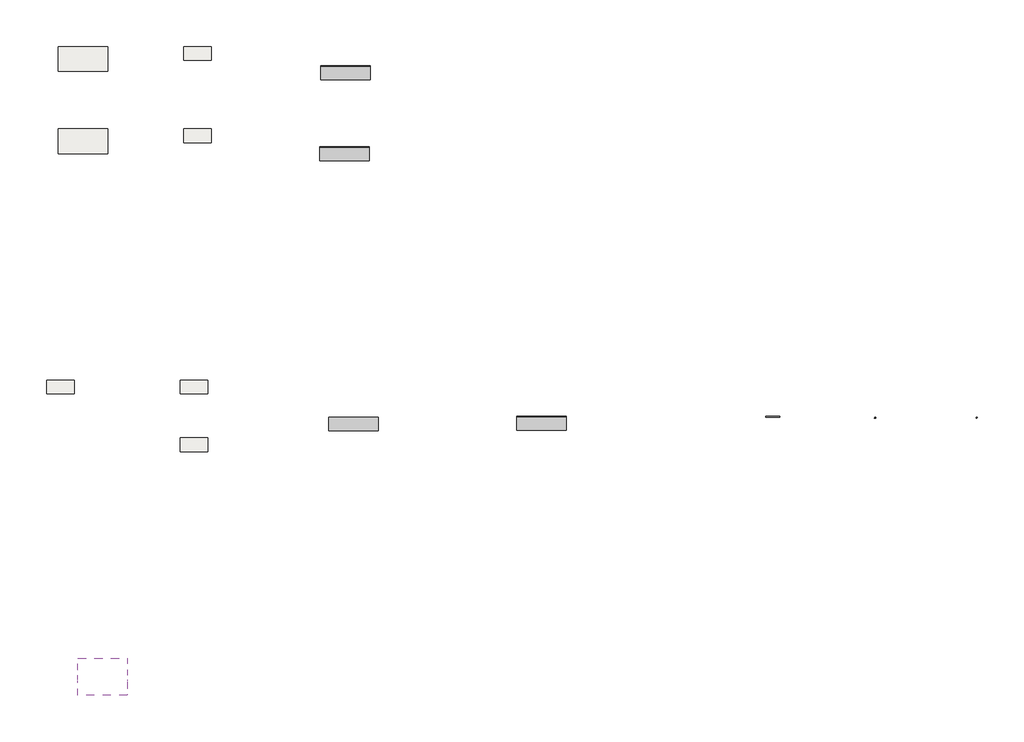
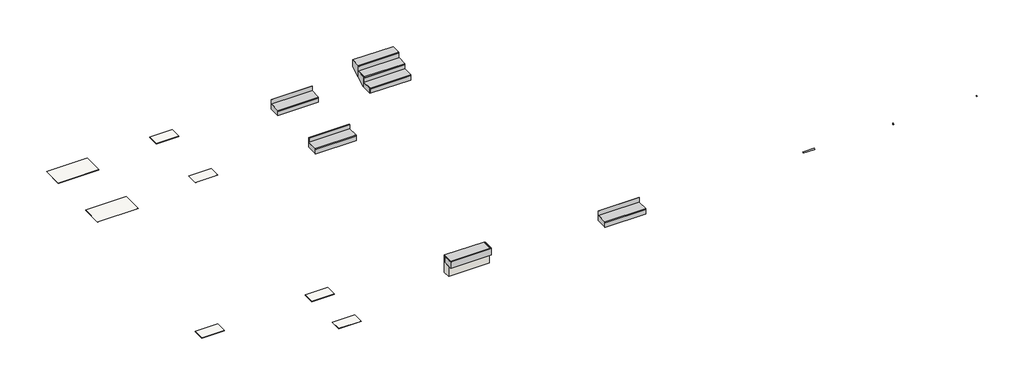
# One storey: 7 slabs, 5 proxies, 4 stair flights, 1 wall.
"""IFC4 building model written with IfcOpenShell, lengths in millimetres."""

import ifcopenshell
import ifcopenshell.guid

model = None  # the IFC model being written
_history = None  # IfcOwnerHistory: only IFC2X3 demands one
_inside = {}  # id of a spatial element -> (the spatial element, [elements in it])
_under = {}  # id of a project, library or spatial element -> (it, [spatial elements below it])
_declared = {}  # id of a project -> (the project, [libraries it declares])
_typed = {}  # id of a type object -> (the type object, [elements of that type])
_made_of = {}  # id of a material, layer set ... -> (it, [elements and type objects made of it])


def new_model(schema):
    """Start an empty IFC model of exactly this schema.

    Asked for "IFC4X3", IfcOpenShell would pick the latest addendum, in which some entities
    have other attributes; the version numbers below select the first issue.
    IFC2X3 requires an IfcOwnerHistory on every rooted entity: one is made here for all.
    """
    global model, _history
    if schema == "IFC4X3":
        model = ifcopenshell.file(schema_version=(4, 3, 0, 0))
    else:
        model = ifcopenshell.file(schema=schema)
    _inside.clear()
    _under.clear()
    _declared.clear()
    _typed.clear()
    _made_of.clear()
    _history = None
    if model.schema == "IFC2X3":
        org = make("IfcOrganization", Name="unknown")
        user = make(
            "IfcPersonAndOrganization",
            ThePerson=make("IfcPerson", FamilyName="unknown"),
            TheOrganization=org,
        )
        app = make(
            "IfcApplication",
            ApplicationDeveloper=org,
            Version="unknown",
            ApplicationFullName="unknown",
            ApplicationIdentifier="unknown",
        )
        _history = make(
            "IfcOwnerHistory",
            OwningUser=user,
            OwningApplication=app,
            ChangeAction="ADDED",
            CreationDate=0,
        )
    return model


def make(cls, **values):
    """One entity of the class cls with the attributes given. An attribute that is None is left unset."""
    return model.create_entity(
        cls, **{name: value for name, value in values.items() if value is not None}
    )


def rooted(cls, **values):
    """An entity with a GlobalId (a new one), such as an element, a storey or a relation."""
    return make(cls, GlobalId=ifcopenshell.guid.new(), OwnerHistory=_history, **values)


def si_unit(unit_type, name, prefix=None):
    """IfcSIUnit, for example si_unit("LENGTHUNIT", "METRE", prefix="MILLI")."""
    return make("IfcSIUnit", UnitType=unit_type, Prefix=prefix, Name=name)


def assignment(units):
    """IfcUnitAssignment: the units of a project."""
    return None if units is None else make("IfcUnitAssignment", Units=units)


def point(xyz):
    """IfcCartesianPoint."""
    return None if xyz is None else make("IfcCartesianPoint", Coordinates=xyz)


def direction(xyz):
    """IfcDirection."""
    return None if xyz is None else make("IfcDirection", DirectionRatios=xyz)


def frame(location, z_axis=None, x_axis=None):
    """IfcAxis2Placement3D, a coordinate frame: its origin and axes. An axis left out is left unset."""
    return make(
        "IfcAxis2Placement3D",
        Location=point(location),
        Axis=direction(z_axis),
        RefDirection=direction(x_axis),
    )


def frame_2d(location, x_axis=None):
    """IfcAxis2Placement2D, a coordinate frame in the plane: its origin and x axis."""
    return make(
        "IfcAxis2Placement2D", Location=point(location), RefDirection=direction(x_axis)
    )


def origin():
    """The frame at (0, 0, 0) with its axes left unset."""
    return frame((0.0, 0.0, 0.0))


def place(relative_to, where):
    """IfcLocalPlacement: puts the frame where relative to a parent placement (None: the world)."""
    return make(
        "IfcLocalPlacement", PlacementRelTo=relative_to, RelativePlacement=where
    )


def context(
    kind, dimensions, precision=None, world=None, true_north=None, identifier=None
):
    """IfcGeometricRepresentationContext, for example the 3D "Model" context."""
    return make(
        "IfcGeometricRepresentationContext",
        ContextIdentifier=identifier,
        ContextType=kind,
        CoordinateSpaceDimension=dimensions,
        Precision=precision,
        WorldCoordinateSystem=world,
        TrueNorth=true_north,
    )


def project(units=None, contexts=None):
    """IfcProject with its units and contexts."""
    return rooted(
        "IfcProject",
        Name="project",
        RepresentationContexts=contexts,
        UnitsInContext=assignment(units),
    )


def spatial(cls, under=None, at=None, **own):
    """A site, building, storey or space (cls), placed at a placement, below another one or the project."""
    s = rooted(cls, ObjectPlacement=at, **own)
    if under is not None:
        _under.setdefault(under.id(), (under, []))[1].append(s)
    return s


def polyline(points):
    """IfcPolyline through the points."""
    return make("IfcPolyline", Points=[point(p) for p in points])


def circle_curve(where, radius):
    """IfcCircle in the frame where."""
    return make("IfcCircle", Position=where, Radius=radius)


def ellipse_curve(where, semi_axis1, semi_axis2):
    """IfcEllipse in the frame where."""
    return make(
        "IfcEllipse", Position=where, SemiAxis1=semi_axis1, SemiAxis2=semi_axis2
    )


def trimmed(basis, trim1, trim2, sense, master):
    """IfcTrimmedCurve: the piece of a basis curve between two trims."""
    return make(
        "IfcTrimmedCurve",
        BasisCurve=basis,
        Trim1=trim1,
        Trim2=trim2,
        SenseAgreement=sense,
        MasterRepresentation=master,
    )


def segment(curve, same_sense, transition):
    """IfcCompositeCurveSegment."""
    return make(
        "IfcCompositeCurveSegment",
        Transition=transition,
        SameSense=same_sense,
        ParentCurve=curve,
    )


def composite_curve(segments, self_intersect=None):
    """IfcCompositeCurve: segments joined end to end."""
    return make("IfcCompositeCurve", Segments=segments, SelfIntersect=self_intersect)


def outline(outer, holes=None, kind="AREA"):
    """IfcArbitraryClosedProfileDef: a profile drawn as a closed curve; with holes, ...WithVoids."""
    if holes is None:
        return make("IfcArbitraryClosedProfileDef", ProfileType=kind, OuterCurve=outer)
    return make(
        "IfcArbitraryProfileDefWithVoids",
        ProfileType=kind,
        OuterCurve=outer,
        InnerCurves=holes,
    )


def extrude(swept, where, along, depth):
    """IfcExtrudedAreaSolid: the profile swept, set in the frame where, extruded along a direction by depth."""
    return make(
        "IfcExtrudedAreaSolid",
        SweptArea=swept,
        Position=where,
        ExtrudedDirection=direction(along),
        Depth=depth,
    )


def faces_of(points, faces, orient=None, outer=None):
    """IfcFace entities. A face is a list of loops; a loop is a list of indices into points, from 0.

    orient and outer hold one flag for each loop. By default every Orientation is true, the
    first loop of a face is its IfcFaceOuterBound and the others are IfcFaceBound.
    """
    made = []
    for i, loops in enumerate(faces):
        bounds = []
        for j, loop in enumerate(loops):
            is_outer = j == 0 if outer is None else outer[i][j]
            bounds.append(
                make(
                    "IfcFaceOuterBound" if is_outer else "IfcFaceBound",
                    Bound=make("IfcPolyLoop", Polygon=[points[k] for k in loop]),
                    Orientation=True if orient is None else orient[i][j],
                )
            )
        made.append(make("IfcFace", Bounds=bounds))
    return made


def faceted_brep(points, faces, orient=None, outer=None, voids=None):
    """IfcFacetedBrep: a solid bounded by flat faces; with voids (closed shells), ...WithVoids."""
    shared = [point(p) for p in points]
    hull = make("IfcClosedShell", CfsFaces=faces_of(shared, faces, orient, outer))
    if voids is None:
        return make("IfcFacetedBrep", Outer=hull)
    return make(
        "IfcFacetedBrepWithVoids",
        Outer=hull,
        Voids=[
            make(cls, CfsFaces=faces_of(shared, fs, o, b)) for cls, fs, o, b in voids
        ],
    )


def shape(context_of_items, identifier, shape_type, items):
    """IfcShapeRepresentation: the items that make up one representation, for example the "Body"."""
    return make(
        "IfcShapeRepresentation",
        ContextOfItems=context_of_items,
        RepresentationIdentifier=identifier,
        RepresentationType=shape_type,
        Items=items,
    )


def source(mapping_origin, context_of_items, identifier, shape_type, items):
    """IfcRepresentationMap: a shape defined once, which mapped items show again and again."""
    return make(
        "IfcRepresentationMap",
        MappingOrigin=mapping_origin,
        MappedRepresentation=shape(context_of_items, identifier, shape_type, items),
    )


def transform(
    local_origin,
    x_axis=None,
    y_axis=None,
    z_axis=None,
    scale=None,
    scale2=None,
    scale3=None,
    uniform=True,
):
    """IfcCartesianTransformationOperator3D, or its non-uniform kind. x_axis, y_axis, z_axis: its Axis1, 2, 3."""
    if uniform:
        return make(
            "IfcCartesianTransformationOperator3D",
            Axis1=direction(x_axis),
            Axis2=direction(y_axis),
            LocalOrigin=point(local_origin),
            Scale=scale,
            Axis3=direction(z_axis),
        )
    return make(
        "IfcCartesianTransformationOperator3DnonUniform",
        Axis1=direction(x_axis),
        Axis2=direction(y_axis),
        LocalOrigin=point(local_origin),
        Scale=scale,
        Axis3=direction(z_axis),
        Scale2=scale2,
        Scale3=scale3,
    )


def mapped(mapping_source, mapping_target):
    """IfcMappedItem: shows the shape of a source again, moved by a transform."""
    return make(
        "IfcMappedItem", MappingSource=mapping_source, MappingTarget=mapping_target
    )


def made_of(thing, what):
    """Note that an element or type object is made of a material, layer set ...; save() writes the relation."""
    if what is not None:
        _made_of.setdefault(what.id(), (what, []))[1].append(thing)
    return thing


def element(
    cls,
    number,
    at=None,
    inside=None,
    cuts=None,
    type_object=None,
    material=None,
    context=None,
    identifier="Body",
    shape_type=None,
    held_by="IfcProductDefinitionShape",
    body=None,
    shapes=None,
    **own,
):
    """One element of the class cls, such as IfcWall. Its Tag is "e" and its number.

    at: its placement. inside: the storey or other place that contains it. cuts: it is an
    opening in that element (IfcRelVoidsElement). A single representation is given by context,
    identifier, shape_type and body (its items); several are given by shapes. held_by: the class
    of the entity that holds the representations. save() writes the other relations.
    """
    e = rooted(cls, Tag="e%d" % number, ObjectPlacement=at, **own)
    if body is not None:
        shapes = [shape(context, identifier, shape_type, body)]
    if shapes is not None:
        e.Representation = make(held_by, Representations=shapes)
    if inside is not None:
        _inside.setdefault(inside.id(), (inside, []))[1].append(e)
    if cuts is not None:
        rooted(
            "IfcRelVoidsElement", RelatingBuildingElement=cuts, RelatedOpeningElement=e
        )
    if type_object is not None:
        _typed.setdefault(type_object.id(), (type_object, []))[1].append(e)
    return made_of(e, material)


def aggregate(whole, parts):
    """IfcRelAggregates: a whole, such as a stair, and the parts it consists of."""
    return rooted("IfcRelAggregates", RelatingObject=whole, RelatedObjects=parts)


def save(model, path):
    """Write the relations noted so far, then the file.

    IfcRelAggregates (storeys below a building ...), IfcRelContainedInSpatialStructure (elements
    in a storey), IfcRelDefinesByType, IfcRelAssociatesMaterial and IfcRelDeclares: one each for
    every whole, place, type object, material and project.
    """
    for whole, parts in _under.values():
        aggregate(whole, parts)
    for where, things in _inside.values():
        rooted(
            "IfcRelContainedInSpatialStructure",
            RelatedElements=things,
            RelatingStructure=where,
        )
    for kind, things in _typed.values():
        rooted("IfcRelDefinesByType", RelatedObjects=things, RelatingType=kind)
    for what, things in _made_of.values():
        rooted("IfcRelAssociatesMaterial", RelatedObjects=things, RelatingMaterial=what)
    for by, libraries in _declared.values():
        rooted("IfcRelDeclares", RelatingContext=by, RelatedDefinitions=libraries)
    model.write(path)


def plane_surface(at):
    """IfcPlane: the flat surface through the origin of the frame at, square to its z axis."""
    return make("IfcPlane", Position=at)


def revolved_surface(curve, axis_point, axis_direction):
    """IfcSurfaceOfRevolution: the curve turned about the line through axis_point along axis_direction."""
    return make(
        "IfcSurfaceOfRevolution",
        SweptCurve=make("IfcArbitraryOpenProfileDef", ProfileType="CURVE", Curve=curve),
        AxisPosition=make("IfcAxis1Placement", Location=point(axis_point), Axis=direction(axis_direction)),
    )


def advanced_brep(points, edges, surfaces, faces):
    """IfcAdvancedBrep: a solid bounded by faces that lie on surfaces and meet in shared edges.

    An edge is (start, end): straight between two places in points (the first is 0);
    or (start, end, curve); or (start, end, curve, False) where it runs against its curve.
    A face is (place in surfaces, loops), or (place, loops, False) where it looks against
    its surface's normal. A loop lists edges by number (the first is 1), with a minus sign
    where the edge is run from its end to its start. The first loop is the outer one.
    """
    corners = [point(p) for p in points]
    vertices = [make("IfcVertexPoint", VertexGeometry=c) for c in corners]
    made = []
    for start, end, *more in edges:
        made.append(
            make(
                "IfcEdgeCurve",
                EdgeStart=vertices[start],
                EdgeEnd=vertices[end],
                EdgeGeometry=more[0] if more else make("IfcPolyline", Points=[corners[start], corners[end]]),
                SameSense=more[1] if len(more) > 1 else True,
            )
        )
    hull = []
    for where, loops, *sense in faces:
        bounds = []
        for j, loop in enumerate(loops):
            ring = [make("IfcOrientedEdge", EdgeElement=made[abs(k) - 1], Orientation=k > 0) for k in loop]
            bounds.append(
                make(
                    "IfcFaceOuterBound" if j == 0 else "IfcFaceBound",
                    Bound=make("IfcEdgeLoop", EdgeList=ring),
                    Orientation=True,
                )
            )
        hull.append(make("IfcAdvancedFace", Bounds=bounds, FaceSurface=surfaces[where], SameSense=sense[0] if sense else True))
    return make("IfcAdvancedBrep", Outer=make("IfcClosedShell", CfsFaces=hull))


def generic_models_fe2e1876(model_context):
    return source(origin(), model_context, "Body", "SweptSolid", [
        extrude(outline(composite_curve([segment(trimmed(circle_curve(frame_2d((23.9, -23.9)), 23.9), [point((0.0, -23.9))], [point((23.9, 0.0))], False, "CARTESIAN"), True, "CONTINUOUS"), segment(polyline([(23.9, 0.0), (23.9, -6.4)]), True, "CONTINUOUS"), segment(trimmed(circle_curve(frame_2d((23.9, -23.9)), 17.5), [point((23.9, -6.4))], [point((6.4, -23.9))], True, "CARTESIAN"), True, "CONTINUOUS"), segment(polyline([(6.4, -23.9), (0.0, -23.9)]), True, "CONTINUOUS")], self_intersect=False)), frame((0.0, 0.0, 0.0), z_axis=(1.0, 0.0, 0.0), x_axis=(0.0, 1.0, 0.0)), (0.0, 0.0, 1.0), 335.0),
    ])


def generic_models_b0f7cce5(model_context):
    return source(origin(), model_context, "Body", "AdvancedBrep", [
        advanced_brep(
        [(0.0, -23.9, 23.9), (23.9, 0.0, 23.9), (23.9, 6.4, 23.9), (-6.4, -23.9, 23.9), (23.9, -23.9, -6.4), (23.9, -23.9, 0.0)],
        [
            (0, 1, circle_curve(frame((23.9, -23.9, 23.9), z_axis=(0.0, 0.0, -1.0), x_axis=(0.0, -1.0, 0.0)), 23.9)),
            (1, 2),
            (2, 3, circle_curve(frame((23.9, -23.9, 23.9), z_axis=(0.0, 0.0, 1.0), x_axis=(0.0, -1.0, 0.0)), 30.3)),
            (3, 0),
            (3, 4, circle_curve(frame((23.9, -23.9, 23.9), z_axis=(0.0, -1.0, 0.0), x_axis=(0.0, 0.0, 1.0)), 30.3)),
            (4, 5),
            (5, 0, circle_curve(frame((23.9, -23.9, 23.9), z_axis=(0.0, 1.0, 0.0), x_axis=(0.0, 0.0, 1.0)), 23.9)),
            (5, 1, circle_curve(frame((23.9, -23.9, 23.9), z_axis=(1.0, 0.0, 0.0), x_axis=(0.0, 1.0, 0.0)), 23.9)),
            (4, 2, circle_curve(frame((23.9, -23.9, 23.9), z_axis=(1.0, 0.0, 0.0), x_axis=(0.0, 1.0, 0.0)), 30.3)),
        ],
        [
            plane_surface(frame((-0.3, -23.9, 23.9), z_axis=(0.0, 0.0, 1.0), x_axis=(0.0, 1.0, 0.0))),
            plane_surface(frame((-0.3, -23.9, 23.9), z_axis=(0.0, -1.0, 0.0), x_axis=(0.0, 0.0, -1.0))),
            revolved_surface(trimmed(ellipse_curve(frame((23.9, -23.9, 23.9), z_axis=(0.0, 0.0, -1.0), x_axis=(0.0, -1.0, 0.0)), 23.9, 23.9), [point((0.0, -23.9, 23.9))], [point((23.9, 0.0, 23.9))], True, "CARTESIAN"), (-0.3, -23.9, 23.9), (-1.0, 0.0, 0.0)),
            plane_surface(frame((23.9, -23.9, 23.9), z_axis=(1.0, 0.0, 0.0), x_axis=(0.0, 1.0, 0.0))),
            revolved_surface(trimmed(ellipse_curve(frame((23.9, -23.9, 23.9), z_axis=(0.0, 0.0, 1.0), x_axis=(0.0, -1.0, 0.0)), 30.3, 30.3), [point((23.9, 6.4, 23.9))], [point((-6.4, -23.9, 23.9))], True, "CARTESIAN"), (-0.3, -23.9, 23.9), (-1.0, 0.0, 0.0)),
        ],
        [
            (0, [[1, 2, 3, 4]]),
            (1, [[5, 6, 7, -4]]),
            (2, [[8, -1, -7]]),
            (3, [[9, -2, -8, -6]]),
            (4, [[-3, -9, -5]]),
        ],
    ),
    ])


def generic_models_d871d5da(model_context):
    return source(origin(), model_context, "Body", "AdvancedBrep", [
        advanced_brep(
        [(-23.9, 6.4, -23.9), (-6.4, 23.9, -23.9), (0.0, 23.9, -23.9), (-23.9, 0.0, -23.9), (-23.9, 23.9, 0.0), (-23.9, 23.9, -6.4)],
        [
            (0, 1, circle_curve(frame((-23.9, 23.9, -23.9), z_axis=(0.0, 0.0, 1.0), x_axis=(0.0, 1.0, 0.0)), 17.5)),
            (1, 2),
            (2, 3, circle_curve(frame((-23.9, 23.9, -23.9), z_axis=(0.0, 0.0, -1.0), x_axis=(0.0, 1.0, 0.0)), 23.9)),
            (3, 0),
            (3, 4, circle_curve(frame((-23.9, 23.9, -23.9), z_axis=(-1.0, 0.0, 0.0), x_axis=(0.0, 1.0, 0.0)), 23.9)),
            (4, 5),
            (5, 0, circle_curve(frame((-23.9, 23.9, -23.9), z_axis=(1.0, 0.0, 0.0), x_axis=(0.0, 1.0, 0.0)), 17.5)),
            (2, 4, circle_curve(frame((-23.9, 23.9, -23.9), z_axis=(0.0, -1.0, 0.0), x_axis=(1.0, 0.0, 0.0)), 23.9)),
            (1, 5, circle_curve(frame((-23.9, 23.9, -23.9), z_axis=(0.0, -1.0, 0.0), x_axis=(1.0, 0.0, 0.0)), 17.5)),
        ],
        [
            plane_surface(frame((-23.9, -10.6, -23.9), z_axis=(0.0, 0.0, -1.0), x_axis=(1.0, 0.0, 0.0))),
            plane_surface(frame((-23.9, -10.6, -23.9), z_axis=(-1.0, 0.0, 0.0), x_axis=(0.0, 0.0, 1.0))),
            revolved_surface(trimmed(ellipse_curve(frame((-23.9, 23.9, -23.9), z_axis=(0.0, 0.0, 1.0), x_axis=(0.0, 1.0, 0.0)), 23.9, 23.9), [point((-23.9, 0.0, -23.9))], [point((0.0, 23.9, -23.9))], True, "CARTESIAN"), (-23.9, -10.6, -23.9), (0.0, 1.0, 0.0)),
            plane_surface(frame((-23.9, 23.9, -23.9), z_axis=(0.0, 1.0, 0.0), x_axis=(1.0, 0.0, 0.0))),
            revolved_surface(trimmed(ellipse_curve(frame((-23.9, 23.9, -23.9), z_axis=(0.0, 0.0, -1.0), x_axis=(0.0, 1.0, 0.0)), 17.5, 17.5), [point((-6.4, 23.9, -23.9))], [point((-23.9, 6.4, -23.9))], True, "CARTESIAN"), (-23.9, -10.6, -23.9), (0.0, 1.0, 0.0)),
        ],
        [
            (0, [[1, 2, 3, 4]]),
            (1, [[5, 6, 7, -4]]),
            (2, [[-3, 8, -5]]),
            (3, [[-8, -2, 9, -6]]),
            (4, [[-9, -1, -7]]),
        ],
    ),
    ])


model = new_model("IFC4")

# Units and contexts
model_context = context("Model", 3, world=origin())
ifc_project = project(units=[si_unit("LENGTHUNIT", "METRE", prefix="MILLI")], contexts=[model_context])

# Site, building, storey
site = spatial("IfcSite", under=ifc_project)
building = spatial("IfcBuilding", under=site)
storey = spatial("IfcBuildingStorey", under=building, Name="EXAGRES_NUBIA Series_Catalogue", Elevation=22000.0)

# Proxies
placement = place(None, origin())
element("IfcBuildingElementProxy", 1, Name="Wall Sweeps", at=placement, inside=storey, context=model_context, shape_type="SweptSolid", body=[
    extrude(outline(polyline([(-8329.4280937, 22500.0), (-8329.4280937, 22508.0), (-8328.4280937, 22508.0), (-8328.4280937, 22514.0), (-8329.4280937, 22514.0), (-8329.4280937, 22521.0), (-8336.4280937, 22521.0), (-8336.4280937, 22522.0), (-8340.4280937, 22522.0), (-8340.4280937, 22521.0), (-8346.4280937, 22521.0), (-8346.4280937, 22522.0), (-8350.4280937, 22522.0), (-8350.4280937, 22521.0), (-8356.4280937, 22521.0), (-8356.4280937, 22522.0), (-8360.4280937, 22522.0), (-8360.4280937, 22521.0), (-8366.4280937, 22521.0), (-8366.4280937, 22522.0), (-8370.4280937, 22522.0), (-8370.4280937, 22521.0), (-8376.4280937, 22521.0), (-8376.4280937, 22522.0), (-8380.4280937, 22522.0), (-8380.4280937, 22521.0), (-8386.4280937, 22521.0), (-8386.4280937, 22522.0), (-8390.4280937, 22522.0), (-8390.4280937, 22521.0), (-8396.4280937, 22521.0), (-8396.4280937, 22522.0), (-8400.4280937, 22522.0), (-8400.4280937, 22521.0), (-8406.4280937, 22521.0), (-8406.4280937, 22522.0), (-8410.4280937, 22522.0), (-8410.4280937, 22521.0), (-8416.4280937, 22521.0), (-8416.4280937, 22522.0), (-8420.4280937, 22522.0), (-8420.4280937, 22521.0), (-8426.4280937, 22521.0), (-8426.4280937, 22522.0), (-8430.4280937, 22522.0), (-8430.4280937, 22521.0), (-8436.4280937, 22521.0), (-8436.4280937, 22522.0), (-8440.4280937, 22522.0), (-8440.4280937, 22521.0), (-8446.4280937, 22521.0), (-8446.4280937, 22522.0), (-8450.4280937, 22522.0), (-8450.4280937, 22521.0), (-8456.4280937, 22521.0), (-8456.4280937, 22522.0), (-8460.4280937, 22522.0), (-8460.4280937, 22521.0), (-8466.4280937, 22521.0), (-8466.4280937, 22522.0), (-8470.4280937, 22522.0), (-8470.4280937, 22521.0), (-8476.4280937, 22521.0), (-8476.4280937, 22522.0), (-8480.4280937, 22522.0), (-8480.4280937, 22521.0), (-8486.4280937, 22521.0), (-8486.4280937, 22522.0), (-8490.4280937, 22522.0), (-8490.4280937, 22521.0), (-8496.4280937, 22521.0), (-8496.4280937, 22522.0), (-8500.4280937, 22522.0), (-8500.4280937, 22521.0), (-8506.4280937, 22521.0), (-8506.4280937, 22522.0), (-8510.4280937, 22522.0), (-8510.4280937, 22521.0), (-8516.4280937, 22521.0), (-8516.4280937, 22522.0), (-8520.4280937, 22522.0), (-8520.4280937, 22521.0), (-8526.4280937, 22521.0), (-8526.4280937, 22522.0), (-8530.4280937, 22522.0), (-8530.4280937, 22521.0), (-8536.4280937, 22521.0), (-8536.4280937, 22522.0), (-8540.4280937, 22522.0), (-8540.4280937, 22521.0), (-8546.4280937, 22521.0), (-8546.4280937, 22522.0), (-8550.4280937, 22522.0), (-8550.4280937, 22521.0), (-8556.4280937, 22521.0), (-8556.4280937, 22522.0), (-8560.4280937, 22522.0), (-8560.4280937, 22521.0), (-8566.4280937, 22521.0), (-8566.4280937, 22522.0), (-8570.4280937, 22522.0), (-8570.4280937, 22521.0), (-8576.4280937, 22521.0), (-8576.4280937, 22522.0), (-8580.4280937, 22522.0), (-8580.4280937, 22521.0), (-8586.4280937, 22521.0), (-8586.4280937, 22522.0), (-8590.4280937, 22522.0), (-8590.4280937, 22521.0), (-8596.4280937, 22521.0), (-8596.4280937, 22522.0), (-8600.4280937, 22522.0), (-8600.4280937, 22521.0), (-8606.4280937, 22521.0), (-8606.4280937, 22522.0), (-8610.4280937, 22522.0), (-8610.4280937, 22521.0), (-8616.4280937, 22521.0), (-8616.4280937, 22522.0), (-8620.4280937, 22522.0), (-8620.4280937, 22521.0), (-8626.4280937, 22521.0), (-8626.4280937, 22522.0), (-8630.4280937, 22522.0), (-8630.4280937, 22521.0), (-8636.4280937, 22521.0), (-8636.4280937, 22522.0), (-8640.4280937, 22522.0), (-8640.4280937, 22521.0), (-8646.4280937, 22521.0), (-8646.4280937, 22533.0), (-8316.4280937, 22533.0), (-8316.4280937, 22500.0), (-8329.4280937, 22500.0)])), frame((5637.1741492, 0.0, 0.0), z_axis=(1.0, 0.0, 0.0), x_axis=(0.0, 1.0, 0.0)), (0.0, 0.0, 1.0), 1202.0),
])
element("IfcBuildingElementProxy", 2, Name="Wall Sweeps", at=placement, inside=storey, context=model_context, shape_type="Brep", body=[
    faceted_brep([(5637.1741492, -8636.4280937, 22318.74), (5637.1741492, -8636.4280937, 22518.74), (5637.1741492, -8331.4280937, 22518.74), (5637.1741492, -8331.4280937, 22500.0), (5637.1741492, -8331.4280937, 22318.74), (5637.1741492, -8541.4280937, 22318.74), (6839.1741492, -8636.4280937, 22318.74), (6839.1741492, -8541.4280937, 22318.74), (6839.1741492, -8331.4280937, 22318.74), (6839.1741492, -8331.4280937, 22500.0), (6839.1741492, -8331.4280937, 22518.74), (6839.1741492, -8636.4280937, 22518.74)], [[[0, 1, 2, 3, 4, 5]], [[6, 7, 8, 9, 10, 11]], [[0, 5, 4, 8, 7, 6]], [[4, 3, 2, 10, 9, 8]], [[2, 1, 11, 10]], [[1, 0, 6, 11]]]),
])
generic_models_shape = generic_models_fe2e1876(model_context)
element("IfcBuildingElementProxy", 3, Name="EXAGRES - Half Round Edge : Nubia_33x3cm", ObjectType="EXAGRES - Half Round Edge : Nubia_33x3cm", at=placement, inside=storey, context=model_context, shape_type="MappedRepresentation", body=[
    mapped(generic_models_shape, transform((16252.844275, -8316.4280937, 22030.0), x_axis=(1.0, 0.0, 0.0), y_axis=(0.0, 1.0, 0.0), z_axis=(0.0, 0.0, 1.0))),
])
generic_models_2_shape = generic_models_b0f7cce5(model_context)
element("IfcBuildingElementProxy", 4, Name="EXAGRES - Coving Corner : Nubia_4x4cm", ObjectType="EXAGRES - Coving Corner : Nubia_4x4cm", at=placement, inside=storey, context=model_context, shape_type="MappedRepresentation", body=[
    mapped(generic_models_2_shape, transform((18887.844275, -8316.4280937, 22000.0), x_axis=(1.0, 0.0, 0.0), y_axis=(0.0, 1.0, 0.0), z_axis=(0.0, 0.0, 1.0))),
])
generic_models_3_shape = generic_models_d871d5da(model_context)
element("IfcBuildingElementProxy", 5, Name="EXAGRES - Round Corner : Nubia_3x3cm", ObjectType="EXAGRES - Round Corner : Nubia_3x3cm", at=placement, inside=storey, context=model_context, shape_type="MappedRepresentation", body=[
    mapped(generic_models_3_shape, transform((21386.6602226, -8344.2306985, 22030.0), x_axis=(1.0, 0.0, 0.0), y_axis=(0.0, 1.0, 0.0), z_axis=(0.0, 0.0, 1.0))),
])

# Slabs
element("IfcSlab", 6, ObjectType="Exagres_Nubia_Base_60x120_R9_Rect", at=placement, inside=storey, context=model_context, shape_type="SweptSolid", body=[
    extrude(outline(polyline([(271.8218898, 684.4826442), (271.8218898, 82.4826442), (-930.1781102, 82.4826442), (-930.1781102, 684.4826442), (271.8218898, 684.4826442)])), frame((0.0, 0.0, 21990.0), z_axis=(0.0, 0.0, 1.0), x_axis=(1.0, 0.0, 0.0)), (0.0, 0.0, 1.0), 10.0),
])
element("IfcSlab", 7, ObjectType="Exagres_Nubia_Base_60x120_R11+C_Rect", at=placement, inside=storey, context=model_context, shape_type="SweptSolid", body=[
    extrude(outline(polyline([(274.8218898, -1315.5173558), (274.8218898, -1920.5173558), (-930.1781102, -1920.5173558), (-930.1781102, -1315.5173558), (274.8218898, -1315.5173558)])), frame((0.0, 0.0, 21990.0), z_axis=(0.0, 0.0, 1.0), x_axis=(1.0, 0.0, 0.0)), (0.0, 0.0, 1.0), 10.0),
])
element("IfcSlab", 8, ObjectType="Exagres_Nubia_Base_33x66,5_R9", at=placement, inside=storey, context=model_context, shape_type="SweptSolid", body=[
    extrude(outline(polyline([(2786.8218898, 684.4826442), (2786.8218898, 352.4826442), (2119.8218898, 352.4826442), (2119.8218898, 684.4826442), (2786.8218898, 684.4826442)])), frame((0.0, 0.0, 21990.0), z_axis=(0.0, 0.0, 1.0), x_axis=(1.0, 0.0, 0.0)), (0.0, 0.0, 1.0), 10.0),
])
element("IfcSlab", 9, ObjectType="Exagres_Nubia_Base_33x66,5_R11+C", at=placement, inside=storey, context=model_context, shape_type="SweptSolid", body=[
    extrude(outline(polyline([(2789.8218898, -1315.5173558), (2789.8218898, -1650.5173558), (2119.8218898, -1650.5173558), (2119.8218898, -1315.5173558), (2789.8218898, -1315.5173558)])), frame((0.0, 0.0, 21990.0), z_axis=(0.0, 0.0, 1.0), x_axis=(1.0, 0.0, 0.0)), (0.0, 0.0, 1.0), 10.0),
])
element("IfcSlab", 10, ObjectType="Exagres_Nubia_Piscina_33x66,5_R9", at=placement, inside=storey, context=model_context, shape_type="SweptSolid", body=[
    extrude(outline(polyline([(-545.155725, -7416.4280937), (-545.155725, -7748.4280937), (-1212.155725, -7748.4280937), (-1212.155725, -7416.4280937), (-545.155725, -7416.4280937)])), frame((0.0, 0.0, 21990.0), z_axis=(0.0, 0.0, 1.0), x_axis=(1.0, 0.0, 0.0)), (0.0, 0.0, 1.0), 10.0),
])
element("IfcSlab", 11, ObjectType="Exagres_Nubia_Piscina_33x66,5_R9", at=placement, inside=storey, context=model_context, shape_type="SweptSolid", body=[
    extrude(outline(polyline([(2704.844275, -7416.4280937), (2704.844275, -7748.4280937), (2037.844275, -7748.4280937), (2037.844275, -7416.4280937), (2704.844275, -7416.4280937)])), frame((0.0, 0.0, 21990.0), z_axis=(0.0, 0.0, 1.0), x_axis=(1.0, 0.0, 0.0)), (0.0, 0.0, 1.0), 10.0),
])
element("IfcSlab", 12, ObjectType="Exagres_Nubia_Piscina_33x66,5_R11+C", at=placement, inside=storey, context=model_context, shape_type="SweptSolid", body=[
    extrude(outline(polyline([(2704.844275, -8816.4280937), (2704.844275, -9148.4280937), (2037.844275, -9148.4280937), (2037.844275, -8816.4280937), (2704.844275, -8816.4280937)])), frame((0.0, 0.0, 21990.0), z_axis=(0.0, 0.0, 1.0), x_axis=(1.0, 0.0, 0.0)), (0.0, 0.0, 1.0), 10.0),
])

# Stair flights
element("IfcStairFlight", 13, ObjectType="EXAGRES_Straight - Nubia R9", at=placement, inside=storey, context=model_context, shape_type="SolidModel", body=[
    faceted_brep([(-451.9029047, -14746.6587674, 33972.3684211), (-451.9029047, -15046.6587674, 33972.3684211), (748.0970953, -15046.6587674, 33972.3684211), (748.0970953, -14746.6587674, 33972.3684211), (-451.9029047, -14746.6587674, 33820.0), (-451.9029047, -15046.6587674, 33820.0), (748.0970953, -15046.6587674, 33820.0), (748.0970953, -14746.6587674, 33820.0), (-451.9029047, -14446.6587674, 34139.7368421), (-451.9029047, -14746.6587674, 34139.7368421), (748.0970953, -14746.6587674, 34139.7368421), (748.0970953, -14446.6587674, 34139.7368421), (-451.9029047, -14446.6587674, 33956.5213642), (-451.9029047, -14691.3668729, 33820.0), (748.0970953, -14691.3668729, 33820.0), (748.0970953, -14446.6587674, 33956.5213642), (-451.9029047, -14161.6587674, 34115.5213642), (748.0970953, -14161.6587674, 34115.5213642), (-451.9029047, -14161.6587674, 34307.1052632), (-451.9029047, -14446.6587674, 34307.1052632), (748.0970953, -14446.6587674, 34307.1052632), (748.0970953, -14161.6587674, 34307.1052632)], [[[0, 1, 2, 3]], [[1, 0, 4, 5]], [[2, 1, 5, 6]], [[3, 2, 6, 7]], [[8, 9, 10, 11]], [[4, 0, 9, 8, 12, 13]], [[0, 3, 10, 9]], [[3, 7, 14, 15, 11, 10]], [[5, 4, 13, 14, 7, 6]], [[14, 13, 12, 16, 17, 15]], [[18, 19, 20, 21]], [[19, 18, 16, 12, 8]], [[8, 11, 20, 19]], [[21, 20, 11, 15, 17]], [[18, 21, 17, 16]]]),
    extrude(outline(polyline([(-14746.6587674, 33972.3684211), (-15043.7492185, 33972.3684211), (-15043.7492185, 33975.3684211), (-15048.6587674, 33975.3684211), (-15048.6587674, 33968.3684211), (-15049.6587674, 33968.3684211), (-15049.6587674, 33962.3684211), (-15048.6587674, 33962.3684211), (-15048.6587674, 33954.3684211), (-15061.6587674, 33954.3684211), (-15061.6587674, 33987.3684211), (-14746.6587674, 33987.3684211), (-14746.6587674, 33972.3684211)])), frame((-451.9029047, 0.0, 0.0), z_axis=(1.0, 0.0, 0.0), x_axis=(0.0, 1.0, 0.0)), (0.0, 0.0, 1.0), 1200.0),
    extrude(outline(polyline([(748.0970953, -15046.6587674), (748.0970953, -15061.6587674), (-451.9029047, -15061.6587674), (-451.9029047, -15046.6587674), (748.0970953, -15046.6587674)])), frame((0.0, 0.0, 33820.0), z_axis=(0.0, 0.0, 1.0), x_axis=(1.0, 0.0, 0.0)), (0.0, 0.0, 1.0), 134.3684211),
    extrude(outline(polyline([(748.0970953, -14746.6587674), (748.0970953, -14761.6587674), (-451.9029047, -14761.6587674), (-451.9029047, -14746.6587674), (748.0970953, -14746.6587674)])), frame((0.0, 0.0, 33987.3684211), z_axis=(0.0, 0.0, 1.0), x_axis=(1.0, 0.0, 0.0)), (0.0, 0.0, 1.0), 134.3684211),
    extrude(outline(polyline([(-14446.6587674, 34139.7368421), (-14743.7492185, 34139.7368421), (-14743.7492185, 34142.7368421), (-14748.6587674, 34142.7368421), (-14748.6587674, 34135.7368421), (-14749.6587674, 34135.7368421), (-14749.6587674, 34129.7368421), (-14748.6587674, 34129.7368421), (-14748.6587674, 34121.7368421), (-14761.6587674, 34121.7368421), (-14761.6587674, 34154.7368421), (-14446.6587674, 34154.7368421), (-14446.6587674, 34139.7368421)])), frame((-451.9029047, 0.0, 0.0), z_axis=(1.0, 0.0, 0.0), x_axis=(0.0, 1.0, 0.0)), (0.0, 0.0, 1.0), 1200.0),
    extrude(outline(polyline([(748.0970953, -14446.6587674), (748.0970953, -14461.6587674), (-451.9029047, -14461.6587674), (-451.9029047, -14446.6587674), (748.0970953, -14446.6587674)])), frame((0.0, 0.0, 34154.7368421), z_axis=(0.0, 0.0, 1.0), x_axis=(1.0, 0.0, 0.0)), (0.0, 0.0, 1.0), 134.3684211),
    extrude(outline(polyline([(-14161.6587674, 34307.1052632), (-14443.7492185, 34307.1052632), (-14443.7492185, 34310.1052632), (-14448.6587674, 34310.1052632), (-14448.6587674, 34303.1052632), (-14449.6587674, 34303.1052632), (-14449.6587674, 34297.1052632), (-14448.6587674, 34297.1052632), (-14448.6587674, 34289.1052632), (-14461.6587674, 34289.1052632), (-14461.6587674, 34322.1052632), (-14161.6587674, 34322.1052632), (-14161.6587674, 34307.1052632)])), frame((-451.9029047, 0.0, 0.0), z_axis=(1.0, 0.0, 0.0), x_axis=(0.0, 1.0, 0.0)), (0.0, 0.0, 1.0), 1200.0),
])
element("IfcStairFlight", 14, ObjectType="EXAGRES_Straight - Nubia R11+C", at=placement, inside=storey, context=model_context, shape_type="SweptSolid", body=[
    extrude(outline(polyline([(5423.0707994, -2072.5173558), (5423.0707994, -1742.5173558), (6623.0707994, -1742.5173558), (6623.0707994, -2072.5173558), (5423.0707994, -2072.5173558)])), frame((0.0, 0.0, 22000.0), z_axis=(0.0, 0.0, 1.0), x_axis=(1.0, 0.0, 0.0)), (0.0, 0.0, 1.0), 151.6666667),
    extrude(outline(polyline([(-1742.5173558, 22151.6666667), (-2069.6078069, 22151.6666667), (-2069.6078069, 22154.6666667), (-2074.5173558, 22154.6666667), (-2074.5173558, 22147.6666667), (-2075.5173558, 22147.6666667), (-2075.5173558, 22141.6666667), (-2074.5173558, 22141.6666667), (-2074.5173558, 22133.6666667), (-2087.5173558, 22133.6666667), (-2087.5173558, 22166.6666667), (-1742.5173558, 22166.6666667), (-1742.5173558, 22151.6666667)])), frame((5423.0707994, 0.0, 0.0), z_axis=(1.0, 0.0, 0.0), x_axis=(0.0, 1.0, 0.0)), (0.0, 0.0, 1.0), 1200.0),
    extrude(outline(polyline([(6623.0707994, -2072.5173558), (6623.0707994, -2087.5173558), (5423.0707994, -2087.5173558), (5423.0707994, -2072.5173558), (6623.0707994, -2072.5173558)])), frame((0.0, 0.0, 22000.0), z_axis=(0.0, 0.0, 1.0), x_axis=(1.0, 0.0, 0.0)), (0.0, 0.0, 1.0), 133.6666667),
    extrude(outline(polyline([(6623.0707994, -1742.5173558), (6623.0707994, -1757.5173558), (5423.0707994, -1757.5173558), (5423.0707994, -1742.5173558), (6623.0707994, -1742.5173558)])), frame((0.0, 0.0, 22166.6666667), z_axis=(0.0, 0.0, 1.0), x_axis=(1.0, 0.0, 0.0)), (0.0, 0.0, 1.0), 133.6666667),
])
element("IfcStairFlight", 15, ObjectType="EXAGRES_Straight - Nubia R9", at=placement, inside=storey, context=model_context, shape_type="SweptSolid", body=[
    extrude(outline(polyline([(5443.0707994, -112.5173558), (5443.0707994, 217.4826442), (6643.0707994, 217.4826442), (6643.0707994, -112.5173558), (5443.0707994, -112.5173558)])), frame((0.0, 0.0, 22000.0), z_axis=(0.0, 0.0, 1.0), x_axis=(1.0, 0.0, 0.0)), (0.0, 0.0, 1.0), 151.6666667),
    extrude(outline(polyline([(217.4826442, 22151.6666667), (-109.6078069, 22151.6666667), (-109.6078069, 22154.6666667), (-114.5173558, 22154.6666667), (-114.5173558, 22147.6666667), (-115.5173558, 22147.6666667), (-115.5173558, 22141.6666667), (-114.5173558, 22141.6666667), (-114.5173558, 22133.6666667), (-127.5173558, 22133.6666667), (-127.5173558, 22166.6666667), (217.4826442, 22166.6666667), (217.4826442, 22151.6666667)])), frame((5443.0707994, 0.0, 0.0), z_axis=(1.0, 0.0, 0.0), x_axis=(0.0, 1.0, 0.0)), (0.0, 0.0, 1.0), 1200.0),
    extrude(outline(polyline([(6643.0707994, -112.5173558), (6643.0707994, -127.5173558), (5443.0707994, -127.5173558), (5443.0707994, -112.5173558), (6643.0707994, -112.5173558)])), frame((0.0, 0.0, 22000.0), z_axis=(0.0, 0.0, 1.0), x_axis=(1.0, 0.0, 0.0)), (0.0, 0.0, 1.0), 133.6666667),
    extrude(outline(polyline([(6643.0707994, 217.4826442), (6643.0707994, 202.4826442), (5443.0707994, 202.4826442), (5443.0707994, 217.4826442), (6643.0707994, 217.4826442)])), frame((0.0, 0.0, 22166.6666667), z_axis=(0.0, 0.0, 1.0), x_axis=(1.0, 0.0, 0.0)), (0.0, 0.0, 1.0), 133.6666667),
])
element("IfcStairFlight", 16, ObjectType="EXAGRES_Straight - Nubia R11+C", at=placement, inside=storey, context=model_context, shape_type="SweptSolid", body=[
    extrude(outline(polyline([(10202.2937791, -8620.2865738), (10202.2937791, -8290.2865738), (11402.2937791, -8290.2865738), (11402.2937791, -8620.2865738), (10202.2937791, -8620.2865738)])), frame((0.0, 0.0, 22000.0), z_axis=(0.0, 0.0, 1.0), x_axis=(1.0, 0.0, 0.0)), (0.0, 0.0, 1.0), 154.4915254),
    extrude(outline(polyline([(-8290.2865738, 22154.4915254), (-8617.3770249, 22154.4915254), (-8617.3770249, 22157.4915254), (-8622.2865738, 22157.4915254), (-8622.2865738, 22150.4915254), (-8623.2865738, 22150.4915254), (-8623.2865738, 22144.4915254), (-8622.2865738, 22144.4915254), (-8622.2865738, 22136.4915254), (-8635.2865738, 22136.4915254), (-8635.2865738, 22169.4915254), (-8290.2865738, 22169.4915254), (-8290.2865738, 22154.4915254)])), frame((10202.2937791, 0.0, 0.0), z_axis=(1.0, 0.0, 0.0), x_axis=(0.0, 1.0, 0.0)), (0.0, 0.0, 1.0), 1200.0),
    extrude(outline(polyline([(11402.2937791, -8620.2865738), (11402.2937791, -8635.2865738), (10202.2937791, -8635.2865738), (10202.2937791, -8620.2865738), (11402.2937791, -8620.2865738)])), frame((0.0, 0.0, 22000.0), z_axis=(0.0, 0.0, 1.0), x_axis=(1.0, 0.0, 0.0)), (0.0, 0.0, 1.0), 136.4915254),
    extrude(outline(polyline([(11402.2937791, -8290.2865738), (11402.2937791, -8305.2865738), (10202.2937791, -8305.2865738), (10202.2937791, -8290.2865738), (11402.2937791, -8290.2865738)])), frame((0.0, 0.0, 22169.4915254), z_axis=(0.0, 0.0, 1.0), x_axis=(1.0, 0.0, 0.0)), (0.0, 0.0, 1.0), 136.4915254),
])

# Wall
element("IfcWall", 17, ObjectType="Exagres_Skimmer pool - Straight Step 33x120 - Nubia", at=placement, inside=storey, context=model_context, shape_type="Brep", body=[
    faceted_brep([(5637.1741492, -8541.4280937, 22000.0), (6839.1741492, -8541.4280937, 22000.0), (6839.1741492, -8541.4280937, 22318.74), (5637.1741492, -8541.4280937, 22318.74), (6839.1741492, -8316.4280937, 22000.0), (5637.1741492, -8316.4280937, 22000.0), (5637.1741492, -8316.4280937, 22500.0), (6839.1741492, -8316.4280937, 22500.0), (6839.1741492, -8329.4280937, 22500.0), (6839.1741492, -8331.4280937, 22500.0), (6839.1741492, -8331.4280937, 22318.74), (5637.1741492, -8329.4280937, 22500.0), (5637.1741492, -8331.4280937, 22500.0), (5637.1741492, -8331.4280937, 22318.74)], [[[0, 1, 2, 3]], [[4, 5, 6, 7]], [[1, 0, 5, 4]], [[4, 7, 8, 9, 10, 2, 1]], [[7, 6, 11, 12, 9, 8]], [[6, 5, 0, 3, 13, 12, 11]], [[10, 13, 3, 2]], [[13, 10, 9, 12]]]),
])

save(model, "model.ifc")
